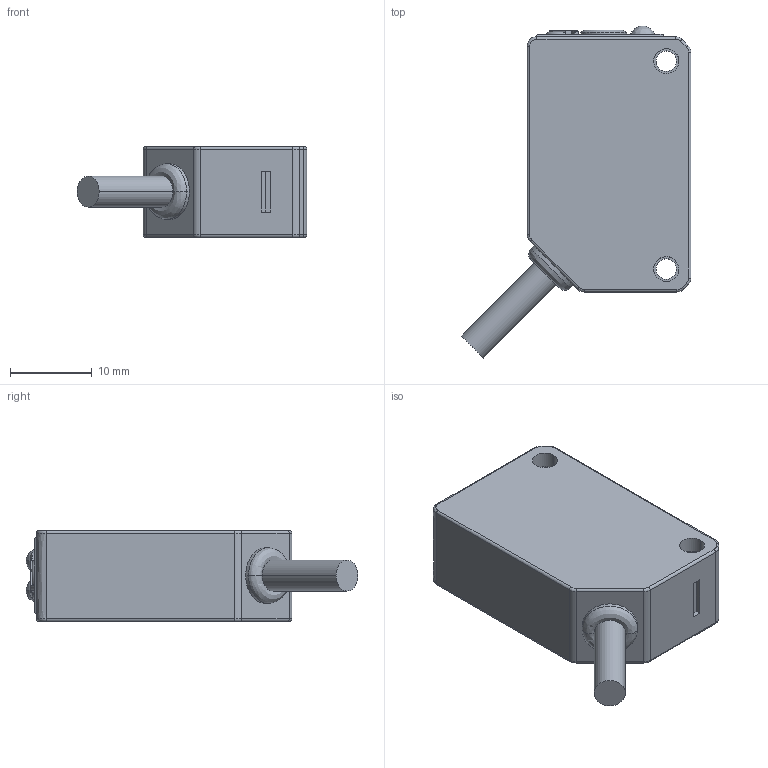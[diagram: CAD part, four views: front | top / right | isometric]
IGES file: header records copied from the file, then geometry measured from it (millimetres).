
Start section: Elysium IGES Interface
Global section: file name: Z:\mikata\aa\BGS-Z_Cable_Type.igs; native system: SolidDesigner 15.00A  14-Mar-2007; preprocessor: OneSpace IGES_3D V2.2; author: Unknown; organization: Unknown; date: 20110426.103530; units: millimetre
Bounding box: 28.06 x 40.56 x 11.1 mm (x, y, z)
Volume: 6775.8 mm3; surface area: 2655.7 mm2
Topology: 1 solids, 1 shells, 212 faces, 530 edges, 329 vertices
Faces by surface type: bspline 212
